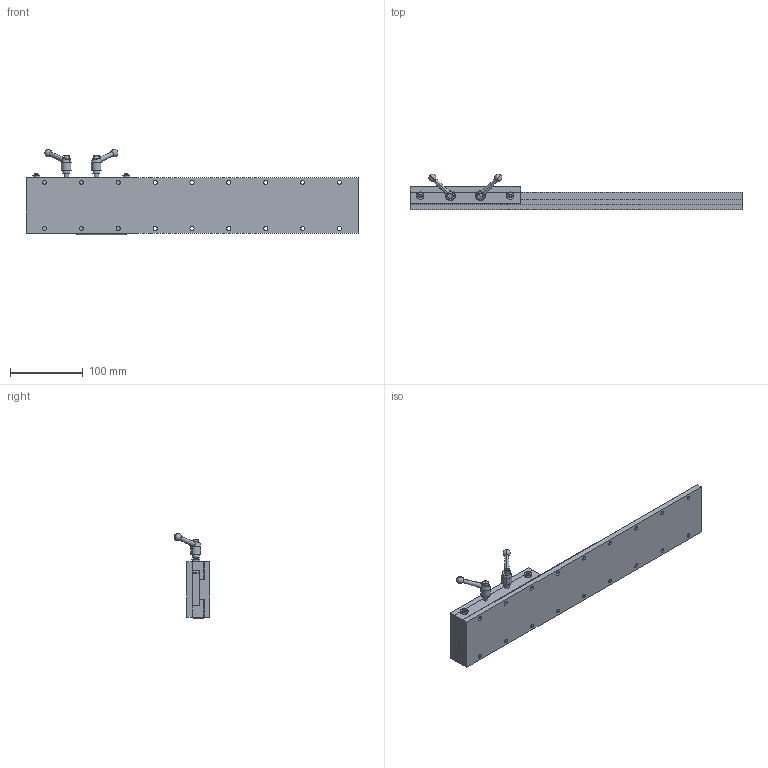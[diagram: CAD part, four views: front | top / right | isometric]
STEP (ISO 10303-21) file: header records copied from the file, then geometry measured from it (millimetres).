
FILE_DESCRIPTION (( 'STEP AP214' ), '1' );
FILE_NAME ('SW03-SL06-BL18-LH.STEP', '2011-06-16T19:24:55', ( '' ), ( '' ), 'SwSTEP 2.0', 'SolidWorks 2011', '' );
FILE_SCHEMA (( 'AUTOMOTIVE_DESIGN' ));
Length unit declared in the file: inch
Products named in the file (13): KHB_56; _MSHXNUT_MSHXNUT 0.190-32-D-N; _SSCUPSOC_SSCUPSKT 0.19-32x0.75-HX-N; Tag; Gen2 Bar_03x06 BAR; Gen2 Adj Gib_03x06 ADJ GIB; Gen2 Gib_03x06 GIB; Gen2 Top plate_03x06 TPLATE; Gen2 BASE_03x18 BASE; Gen2 Hardplate_03x18 HPLATE; Gen2 Baseplate_03x18 BASE; SW03-SL06-BL18-LH; Gen2 SADDLE_03x06 SADDLE with LOCK HANDLES
Assembly tree (15 placements, depth 3):
  SW03-SL06-BL18-LH
    Gen2 SADDLE_03x06 SADDLE with LOCK HANDLES
      Gen2 Bar_03x06 BAR
      Gen2 Top plate_03x06 TPLATE
      Gen2 Gib_03x06 GIB
      KHB_56  x2
      _SSCUPSOC_SSCUPSKT 0.19-32x0.75-HX-N  x2
      _MSHXNUT_MSHXNUT 0.190-32-D-N  x2
      Gen2 Adj Gib_03x06 ADJ GIB
      Tag
    Gen2 BASE_03x18 BASE
      Gen2 Hardplate_03x18 HPLATE
      Gen2 Baseplate_03x18 BASE
Bounding box: 457.2 x 48.67 x 117.24 mm (x, y, z)
Volume: 730147.2 mm3; surface area: 228939.3 mm2
Topology: 18 solids, 18 shells, 356 faces, 810 edges, 508 vertices
Faces by surface type: plane 152, cylinder 128, cone 68, sphere 4, bspline 4
Entity records: 9731 total; most frequent: CARTESIAN_POINT 2328, DIRECTION 1438, ORIENTED_EDGE 1268, EDGE_CURVE 634, AXIS2_PLACEMENT_3D 549, VERTEX_POINT 409, EDGE_LOOP 361, LINE 340
